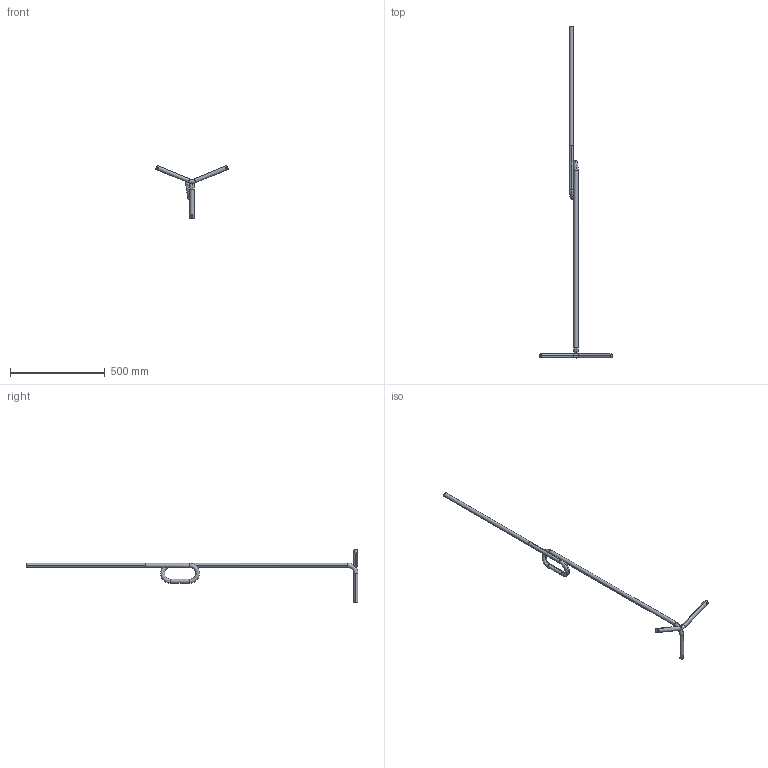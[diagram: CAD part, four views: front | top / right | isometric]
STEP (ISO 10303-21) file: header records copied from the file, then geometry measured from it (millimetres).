
FILE_DESCRIPTION (( 'STEP AP214' ), '1' );
FILE_NAME ('294_STD_F_LD_3D.STEP', '2021-05-24T12:22:21', ( '' ), ( '' ), 'SwSTEP 2.0', 'SolidWorks 2021', '' );
FILE_SCHEMA (( 'AUTOMOTIVE_DESIGN' ));
Length unit declared in the file: millimetre
Products named in the file (1): 294_STD_F_LD_3D
Bounding box: 383.68 x 1755.5 x 281.29 mm (x, y, z)
Volume: 1061435.5 mm3; surface area: 194850.6 mm2
Topology: 2 solids, 2 shells, 86 faces, 265 edges, 199 vertices
Faces by surface type: cylinder 43, cone 18, plane 14, torus 9, bspline 2
Entity records: 4999 total; most frequent: CARTESIAN_POINT 2316, ORIENTED_EDGE 522, DIRECTION 385, EDGE_CURVE 261, VERTEX_POINT 199, AXIS2_PLACEMENT_3D 164, EDGE_LOOP 106, ADVANCED_FACE 86
